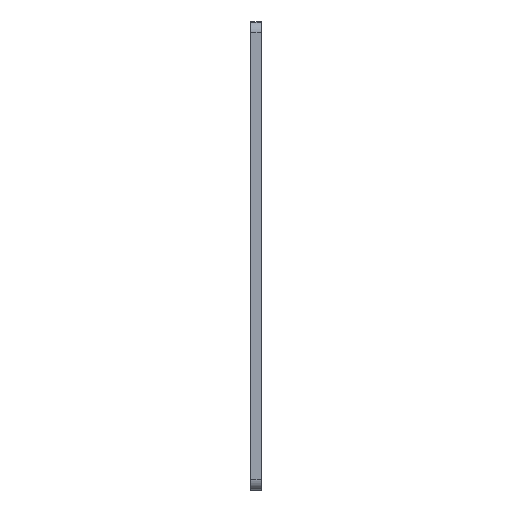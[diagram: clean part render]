
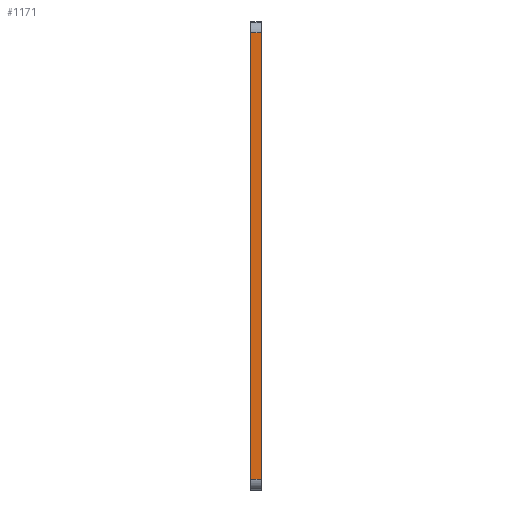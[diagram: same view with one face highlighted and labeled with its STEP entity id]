
A CAD part, left-side view. The second image highlights one B-rep face of the part: STEP entity #1171.
In plain terms, the highlighted planar face has unit normal (-1, 0, 0).
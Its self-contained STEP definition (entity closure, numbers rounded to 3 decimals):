
#20 = CARTESIAN_POINT ( 'NONE',  ( 157.507, 0., -1.6 ) ) ;
#225 = LINE ( 'NONE', #2177, #332 ) ;
#238 = VERTEX_POINT ( 'NONE', #2376 ) ;
#268 = DIRECTION ( 'NONE',  ( 1., 0., 0. ) ) ;
#332 = VECTOR ( 'NONE', #1020, 1000. ) ;
#373 = VERTEX_POINT ( 'NONE', #20 ) ;
#378 = AXIS2_PLACEMENT_3D ( 'NONE', #668, #268, #1261 ) ;
#401 = EDGE_LOOP ( 'NONE', ( #819, #1600, #1263, #1812 ) ) ;
#424 = FACE_OUTER_BOUND ( 'NONE', #401, .T. ) ;
#434 = LINE ( 'NONE', #1225, #2529 ) ;
#668 = CARTESIAN_POINT ( 'NONE',  ( 157.507, 1., -1.6 ) ) ;
#669 = EDGE_CURVE ( 'NONE', #1650, #373, #225, .T. ) ;
#808 = CARTESIAN_POINT ( 'NONE',  ( 157.507, 1., -1.6 ) ) ;
#819 = ORIENTED_EDGE ( 'NONE', *, *, #669, .T. ) ;
#856 = PLANE ( 'NONE',  #378 ) ;
#1000 = EDGE_CURVE ( 'NONE', #238, #1650, #1399, .T. ) ;
#1020 = DIRECTION ( 'NONE',  ( 0., 0., 1. ) ) ;
#1168 = LINE ( 'NONE', #2363, #1804 ) ;
#1171 = ADVANCED_FACE ( 'NONE', ( #424 ), #856, .F. ) ;
#1225 = CARTESIAN_POINT ( 'NONE',  ( 157.507, 1., -1.6 ) ) ;
#1261 = DIRECTION ( 'NONE',  ( 0., 0., -1. ) ) ;
#1263 = ORIENTED_EDGE ( 'NONE', *, *, #1874, .F. ) ;
#1325 = EDGE_CURVE ( 'NONE', #1978, #373, #1168, .T. ) ;
#1329 = CARTESIAN_POINT ( 'NONE',  ( 157.507, 0., -43.4 ) ) ;
#1357 = DIRECTION ( 'NONE',  ( 0., -1., 0. ) ) ;
#1399 = LINE ( 'NONE', #2356, #2373 ) ;
#1600 = ORIENTED_EDGE ( 'NONE', *, *, #1325, .F. ) ;
#1650 = VERTEX_POINT ( 'NONE', #1329 ) ;
#1742 = DIRECTION ( 'NONE',  ( 0., -1., 0. ) ) ;
#1804 = VECTOR ( 'NONE', #1742, 1000. ) ;
#1812 = ORIENTED_EDGE ( 'NONE', *, *, #1000, .T. ) ;
#1874 = EDGE_CURVE ( 'NONE', #238, #1978, #434, .T. ) ;
#1978 = VERTEX_POINT ( 'NONE', #808 ) ;
#2015 = DIRECTION ( 'NONE',  ( 0., 0., 1. ) ) ;
#2177 = CARTESIAN_POINT ( 'NONE',  ( 157.507, 0., -1.6 ) ) ;
#2356 = CARTESIAN_POINT ( 'NONE',  ( 157.507, 1., -43.4 ) ) ;
#2363 = CARTESIAN_POINT ( 'NONE',  ( 157.507, 1., -1.6 ) ) ;
#2373 = VECTOR ( 'NONE', #1357, 1000. ) ;
#2376 = CARTESIAN_POINT ( 'NONE',  ( 157.507, 1., -43.4 ) ) ;
#2529 = VECTOR ( 'NONE', #2015, 1000. ) ;
